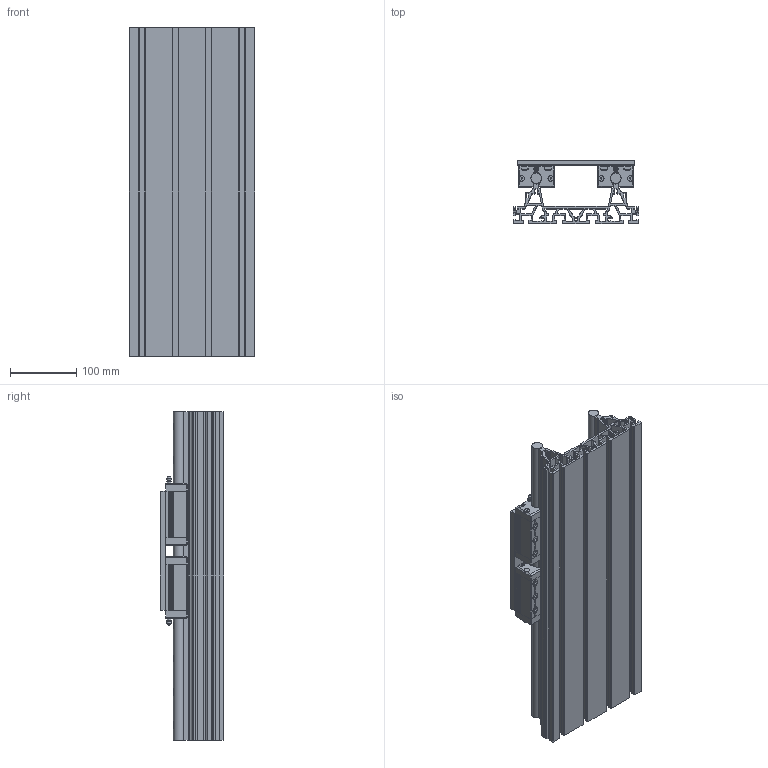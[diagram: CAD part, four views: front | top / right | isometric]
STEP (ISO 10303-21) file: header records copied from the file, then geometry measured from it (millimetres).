
FILE_DESCRIPTION (( 'STEP AP203' ), '1' );
FILE_NAME ('Linearführung LFS-16-120 ArtNr 220008 XXXX mit 4xIWS 1 ArtNr 223240 0008.STEP', '2013-09-25T06:45:52', ( 'test' ), ( 'Microsoft' ), 'SwSTEP 2.0', 'SolidWorks 2012', '' );
FILE_SCHEMA (( 'CONFIG_CONTROL_DESIGN' ));
Length unit declared in the file: millimetre
Products named in the file (1): Linearführung LFS-16-120 ArtNr 220008 XXXX mit 4xIWS 1 ArtNr 223240 0008
Bounding box: 190 x 95.7 x 498 mm (x, y, z)
Surface area: 1050120.3 mm2 (no closed solid volume)
Topology: 0 solids, 92 shells, 2223 faces, 7055 edges, 4710 vertices
Faces by surface type: plane 1645, cylinder 446, cone 84, torus 44, sphere 4
Full cylindrical faces by diameter (mm): 3.5 x20, 4.2 x8, 5 x8, 7 x20, 7.5 x20, 8 x16, 8.4 x16, 10 x24, 10.5 x24, 11 x16, 16 x2
Entity records: 78421 total; most frequent: CARTESIAN_POINT 18955, ORIENTED_EDGE 11798, DIRECTION 11531, EDGE_CURVE 6659, VECTOR 4955, LINE 4955, VERTEX_POINT 4616, AXIS2_PLACEMENT_3D 3288
